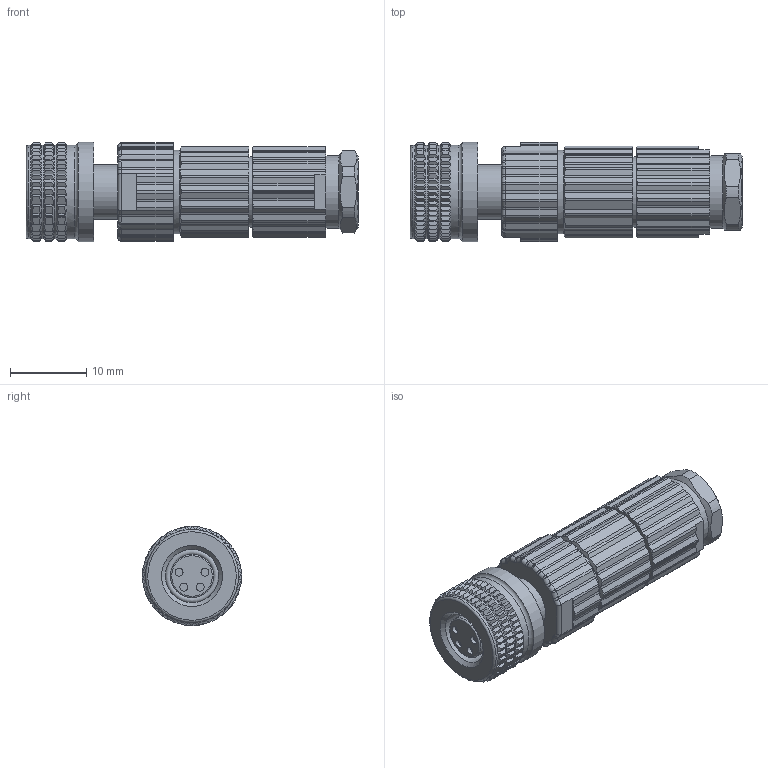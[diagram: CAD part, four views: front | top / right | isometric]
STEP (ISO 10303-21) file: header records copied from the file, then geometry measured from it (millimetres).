
FILE_DESCRIPTION( ( 'Unknown' ), '1' );
FILE_NAME( '//eu.gad.local/users/Everinghauserheide/Users/kxp03041/SoldiEdgeListe/934-120-100_HM.stp', 'Unknown', ( 'Unknown' ), ( 'Unknown' ), 'PSStep 15.0.49', 'Unknown', ' ' );
FILE_SCHEMA( ( 'AUTOMOTIVE_DESIGN { 1 0 10303 214 1 1 1 1 }' ) );
Length unit declared in the file: millimetre
Products named in the file (1): 734-808-100_0_01_000021042DNR
Bounding box: 43.5 x 13 x 13 mm (x, y, z)
Volume: 4390.4 mm3; surface area: 2516.2 mm2
Topology: 1 solids, 2 shells, 880 faces, 2043 edges, 1187 vertices
Faces by surface type: plane 443, cone 244, cylinder 125, torus 68
Full cylindrical faces by diameter (mm): 1.05 x4, 5.5 x1, 5.6 x1, 5.7 x1, 6.85 x1, 7 x1, 7.1 x1, 9.3 x1, 9.5 x1, 11 x1, 12.2 x1, 13 x1
Entity records: 32016 total; most frequent: CARTESIAN_POINT 6222, ORIENTED_EDGE 3990, DIRECTION 3718, EDGE_CURVE 1995, AXIS2_PLACEMENT_3D 1477, VERTEX_POINT 1169, EDGE_LOOP 932, FACE_OUTER_BOUND 903
